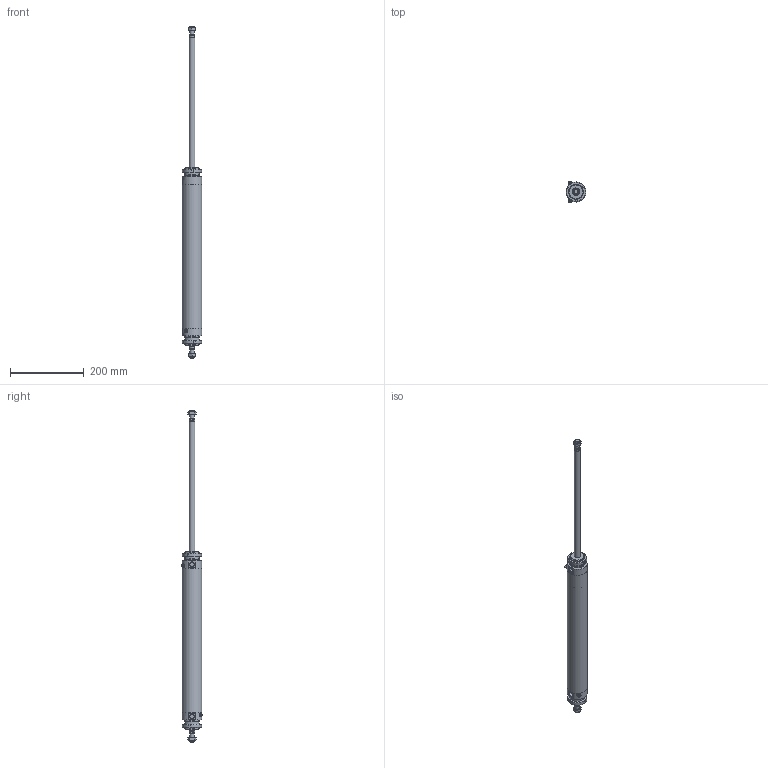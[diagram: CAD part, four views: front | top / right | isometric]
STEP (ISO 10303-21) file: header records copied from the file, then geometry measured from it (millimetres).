
FILE_DESCRIPTION(/* description */ (''),/* implementation_level */ '2;1');
FILE_NAME(/* name */ 'I:\Area Tecnica\Documenti\A-Manieri\_Inventor\12X\12X#S_###_####_#_#\12XDS_050_0350_#_#.stp',/* time_stamp */ '2015-05-13T08:20:51+02:00',/* author */ ('maniean1'),/* organization */ ('Pneumax S.p.A.'),/* preprocessor_version */ 'ST-DEVELOPER v15.2',/* originating_system */ 'Autodesk Inventor 2014',/* authorisation */ '');
FILE_SCHEMA (('AUTOMOTIVE_DESIGN { 1 0 10303 214 3 1 1 }'));
Length unit declared in the file: millimetre
Products named in the file (6): C1250_619-0350; 12X50_606; SP12X50_0350; 12X_50_11; G12X_050_05; 12XDS_050_0350_#_#
Bounding box: 54 x 57.75 x 902 mm (x, y, z)
Volume: 534149.3 mm3; surface area: 218899.4 mm2
Topology: 8 solids, 8 shells, 151 faces, 345 edges, 222 vertices
Faces by surface type: plane 78, cylinder 37, cone 34, torus 2
Full cylindrical faces by diameter (mm): 5 x2, 10.2 x2, 11 x2, 11.4 x2, 12 x4, 14 x2, 15.6 x2, 16 x2, 38.2 x2, 40 x6, 50 x2, 54 x3
Entity records: 2556 total; most frequent: CARTESIAN_POINT 505, DIRECTION 428, ORIENTED_EDGE 342, AXIS2_PLACEMENT_3D 182, EDGE_CURVE 171, EDGE_LOOP 144, VERTEX_POINT 129, ADVANCED_FACE 94
